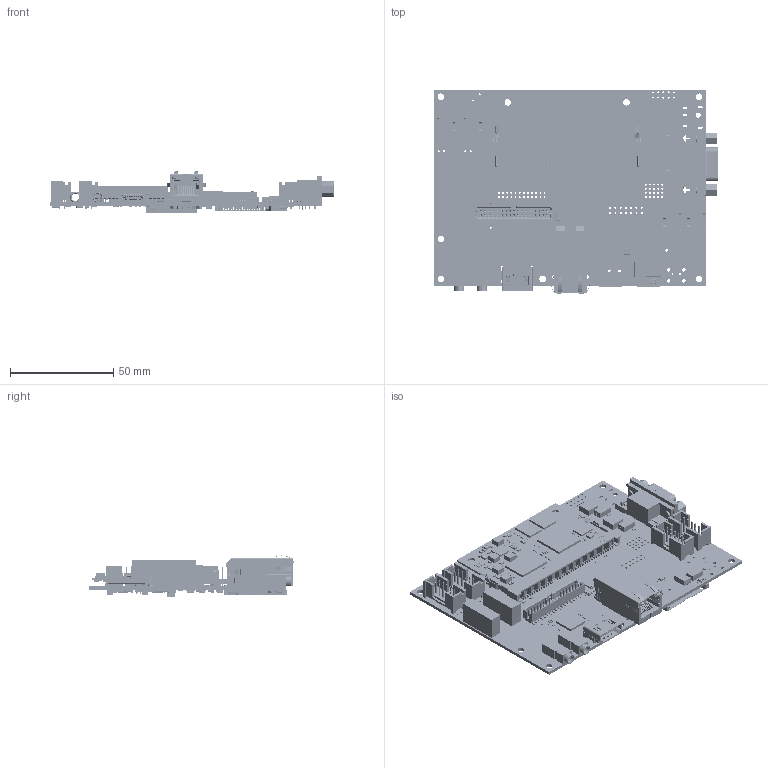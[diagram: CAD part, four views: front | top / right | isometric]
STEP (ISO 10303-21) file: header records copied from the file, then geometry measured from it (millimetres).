
FILE_DESCRIPTION(('Open CASCADE Model'),'2;1');
FILE_NAME('Open CASCADE Shape Model','2026-07-15T15:47:34',('Author'),( 'Open CASCADE'),'Open CASCADE STEP processor 7.5','Open CASCADE 7.5' ,'Unknown');
FILE_SCHEMA(('AUTOMOTIVE_DESIGN { 1 0 10303 214 1 1 1 1 }'));
Length unit declared in the file: millimetre
Products named in the file (1601): Open CASCADE STEP translator 7.5 1; Open CASCADE STEP translator 7.5 2; Open CASCADE STEP translator 7.5 3; Open CASCADE STEP translator 7.5 4; Open CASCADE STEP translator 7.5 5; Open CASCADE STEP translator 7.5 6; Open CASCADE STEP translator 7.5 7; Open CASCADE STEP translator 7.5 8; Open CASCADE STEP translator 7.5 9; Open CASCADE STEP translator 7.5 10; Open CASCADE STEP translator 7.5 11; Open CASCADE STEP translator 7.5 12; Open CASCADE STEP translator 7.5 13; Open CASCADE STEP translator 7.5 14; Open CASCADE STEP translator 7.5 15; Open CASCADE STEP translator 7.5 16; Open CASCADE STEP translator 7.5 17; Open CASCADE STEP translator 7.5 18; Open CASCADE STEP translator 7.5 19; Open CASCADE STEP translator 7.5 20; Open CASCADE STEP translator 7.5 21; Open CASCADE STEP translator 7.5 22; Open CASCADE STEP translator 7.5 23; Open CASCADE STEP translator 7.5 24; Open CASCADE STEP translator 7.5 25; Open CASCADE STEP translator 7.5 26; Open CASCADE STEP translator 7.5 27; Open CASCADE STEP translator 7.5 28; Open CASCADE STEP translator 7.5 29; Open CASCADE STEP translator 7.5 30; Open CASCADE STEP translator 7.5 31; Open CASCADE STEP translator 7.5 32; Open CASCADE STEP translator 7.5 33; Open CASCADE STEP translator 7.5 34; Open CASCADE STEP translator 7.5 35; Open CASCADE STEP translator 7.5 36; Open CASCADE STEP translator 7.5 37; Open CASCADE STEP translator 7.5 38; Open CASCADE STEP translator 7.5 39; Open CASCADE STEP translator 7.5 40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
Bounding box: 137.91 x 99.26 x 19.88 mm (x, y, z)
Volume: 38646 mm3; surface area: 69634.3 mm2
Topology: 1598 solids, 1621 shells, 34442 faces, 86027 edges, 55240 vertices
Faces by surface type: plane 23395, bspline 5257, cylinder 5106, sphere 574, torus 66, cone 44
Full cylindrical faces by diameter (mm): 0.254 x3, 0.33 x16, 0.38 x21, 0.9 x14, 0.914 x57, 0.94 x44, 1 x17, 1.09 x9, 1.1 x1, 1.144 x4, 1.2 x1, 1.22 x8, 1.27 x1, 1.3 x4, 1.5 x4, 1.6 x1, 1.626 x2, 1.7 x8, 2.5 x1, 3.174 x2, 3.175 x2, 3.26 x2, 3.302 x9
Entity records: 1256551 total; most frequent: CARTESIAN_POINT 350099, ORIENTED_EDGE 169186, DIRECTION 139659, EDGE_CURVE 84593, LINE 63589, VECTOR 63589, VERTEX_POINT 54536, AXIS2_PLACEMENT_3D 38035
